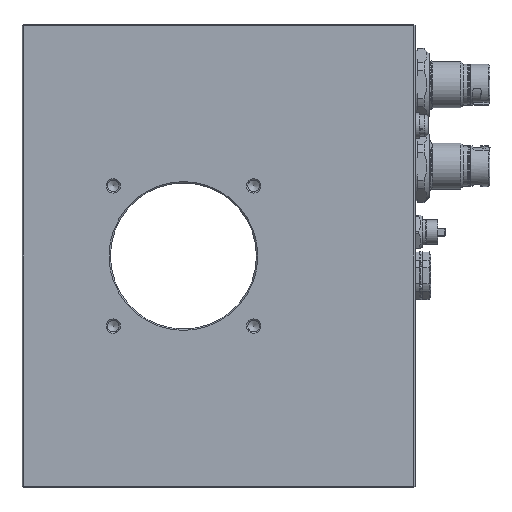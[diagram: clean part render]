
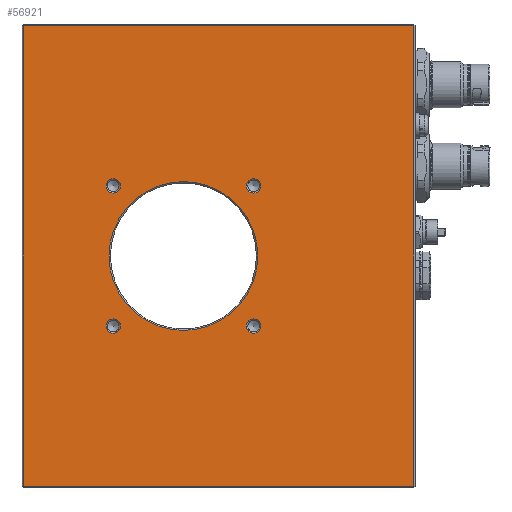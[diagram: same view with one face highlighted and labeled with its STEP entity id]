
A CAD part, front view. The second image highlights one B-rep face of the part: STEP entity #56921.
In plain terms, the highlighted planar face has unit normal (0, -1, 0).
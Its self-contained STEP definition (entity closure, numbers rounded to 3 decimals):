
#973=FACE_BOUND('',#8327,.T.);
#974=FACE_BOUND('',#8328,.T.);
#975=FACE_BOUND('',#8329,.T.);
#976=FACE_BOUND('',#8330,.T.);
#977=FACE_BOUND('',#8331,.T.);
#2805=PLANE('',#60482);
#5045=FACE_OUTER_BOUND('',#8326,.T.);
#8326=EDGE_LOOP('',(#41716,#41717,#41718,#41719));
#8327=EDGE_LOOP('',(#41720));
#8328=EDGE_LOOP('',(#41721));
#8329=EDGE_LOOP('',(#41722));
#8330=EDGE_LOOP('',(#41723));
#8331=EDGE_LOOP('',(#41724));
#11139=CIRCLE('',#60479,2.567);
#11142=CIRCLE('',#60483,2.567);
#11143=CIRCLE('',#60484,2.567);
#11144=CIRCLE('',#60485,26.5);
#11145=CIRCLE('',#60486,2.567);
#14633=LINE('',#95608,#19335);
#14634=LINE('',#95610,#19336);
#14635=LINE('',#95612,#19337);
#14636=LINE('',#95613,#19338);
#19335=VECTOR('',#68977,10.);
#19336=VECTOR('',#68978,10.);
#19337=VECTOR('',#68979,10.);
#19338=VECTOR('',#68980,10.);
#24464=VERTEX_POINT('',#95598);
#24467=VERTEX_POINT('',#95606);
#24468=VERTEX_POINT('',#95607);
#24469=VERTEX_POINT('',#95609);
#24470=VERTEX_POINT('',#95611);
#24471=VERTEX_POINT('',#95614);
#24472=VERTEX_POINT('',#95616);
#24473=VERTEX_POINT('',#95618);
#24474=VERTEX_POINT('',#95620);
#30643=EDGE_CURVE('',#24464,#24464,#11139,.T.);
#30647=EDGE_CURVE('',#24467,#24468,#14633,.T.);
#30648=EDGE_CURVE('',#24469,#24467,#14634,.T.);
#30649=EDGE_CURVE('',#24470,#24469,#14635,.T.);
#30650=EDGE_CURVE('',#24468,#24470,#14636,.T.);
#30651=EDGE_CURVE('',#24471,#24471,#11142,.T.);
#30652=EDGE_CURVE('',#24472,#24472,#11143,.T.);
#30653=EDGE_CURVE('',#24473,#24473,#11144,.T.);
#30654=EDGE_CURVE('',#24474,#24474,#11145,.T.);
#41716=ORIENTED_EDGE('',*,*,#30647,.F.);
#41717=ORIENTED_EDGE('',*,*,#30648,.F.);
#41718=ORIENTED_EDGE('',*,*,#30649,.F.);
#41719=ORIENTED_EDGE('',*,*,#30650,.F.);
#41720=ORIENTED_EDGE('',*,*,#30651,.F.);
#41721=ORIENTED_EDGE('',*,*,#30652,.F.);
#41722=ORIENTED_EDGE('',*,*,#30653,.F.);
#41723=ORIENTED_EDGE('',*,*,#30654,.F.);
#41724=ORIENTED_EDGE('',*,*,#30643,.F.);
#56921=ADVANCED_FACE('',(#5045,#973,#974,#975,#976,#977),#2805,.T.);
#60479=AXIS2_PLACEMENT_3D('',#95599,#68968,#68969);
#60482=AXIS2_PLACEMENT_3D('',#95605,#68975,#68976);
#60483=AXIS2_PLACEMENT_3D('',#95615,#68981,#68982);
#60484=AXIS2_PLACEMENT_3D('',#95617,#68983,#68984);
#60485=AXIS2_PLACEMENT_3D('',#95619,#68985,#68986);
#60486=AXIS2_PLACEMENT_3D('',#95621,#68987,#68988);
#68968=DIRECTION('center_axis',(0.,-1.,0.));
#68969=DIRECTION('ref_axis',(-1.,0.,0.));
#68975=DIRECTION('center_axis',(0.,-1.,0.));
#68976=DIRECTION('ref_axis',(0.,0.,
-1.));
#68977=DIRECTION('',(1.,0.,0.));
#68978=DIRECTION('',(0.,0.,1.));
#68979=DIRECTION('',(-1.,0.,0.));
#68980=DIRECTION('',(0.,0.,-1.));
#68981=DIRECTION('center_axis',(0.,-1.,0.));
#68982=DIRECTION('ref_axis',(-1.,0.,0.));
#68983=DIRECTION('center_axis',(0.,-1.,0.));
#68984=DIRECTION('ref_axis',(-1.,0.,0.));
#68985=DIRECTION('center_axis',(0.,-1.,0.));
#68986=DIRECTION('ref_axis',(1.,0.,0.));
#68987=DIRECTION('center_axis',(0.,-1.,0.));
#68988=DIRECTION('ref_axis',(-1.,0.,0.));
#95598=CARTESIAN_POINT('',(-34.933,0.,-25.));
#95599=CARTESIAN_POINT('Origin',(-37.5,0.,-25.));
#95605=CARTESIAN_POINT('Origin',(0.,0.,
0.));
#95606=CARTESIAN_POINT('',(-69.5,0.,82.));
#95607=CARTESIAN_POINT('',(69.5,0.,82.));
#95608=CARTESIAN_POINT('',(-35.,0.,82.));
#95609=CARTESIAN_POINT('',(-69.5,0.,-82.));
#95610=CARTESIAN_POINT('',(-69.5,0.,-41.25));
#95611=CARTESIAN_POINT('',(69.5,0.,-82.));
#95612=CARTESIAN_POINT('',(35.,0.,-82.));
#95613=CARTESIAN_POINT('',(69.5,0.,41.25));
#95614=CARTESIAN_POINT('',(15.067,0.,-25.));
#95615=CARTESIAN_POINT('Origin',(12.5,0.,-25.));
#95616=CARTESIAN_POINT('',(15.067,0.,25.));
#95617=CARTESIAN_POINT('Origin',(12.5,0.,25.));
#95618=CARTESIAN_POINT('',(-39.,0.,0.));
#95619=CARTESIAN_POINT('Origin',(-12.5,0.,0.));
#95620=CARTESIAN_POINT('',(-34.933,0.,25.));
#95621=CARTESIAN_POINT('Origin',(-37.5,0.,25.));
